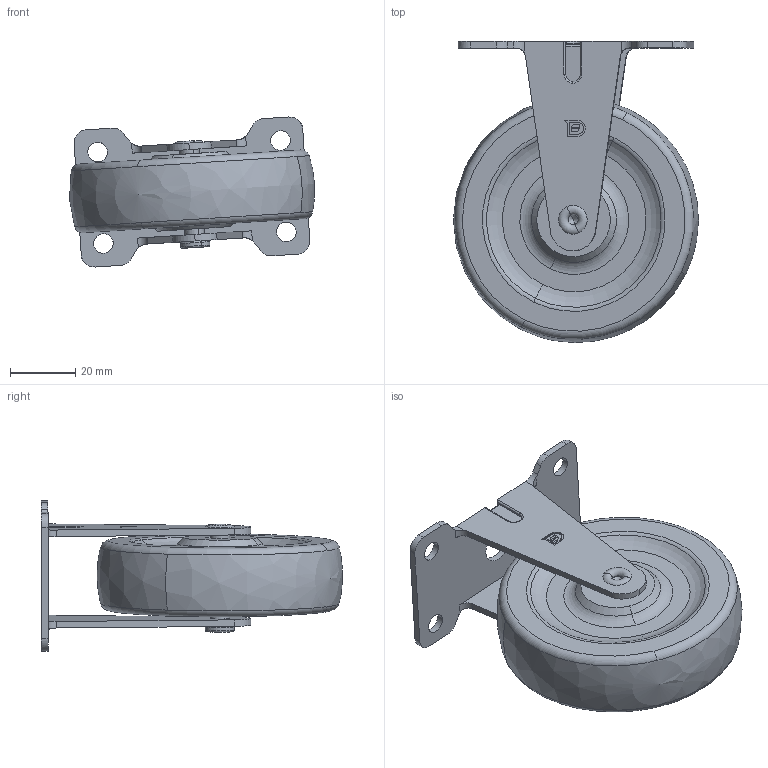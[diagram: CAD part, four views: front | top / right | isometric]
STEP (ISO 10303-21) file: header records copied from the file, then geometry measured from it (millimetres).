
FILE_DESCRIPTION (( 'STEP AP203' ), '1' );
FILE_NAME ('嘐隅.STEP', '2026-03-23T02:03:30', ( '' ), ( '' ), 'SwSTEP 2.0', 'SolidWorks 2021', '' );
FILE_SCHEMA (( 'CONFIG_CONTROL_DESIGN' ));
Length unit declared in the file: millimetre
Products named in the file (5): 3x8分7扁輪_預設; 嘐隅; 3渡25炵蹈嘐隅殤; 蚾饜极1; 輪子鉚釘_預設
Assembly tree (4 placements, depth 3):
  嘐隅
    蚾饜极1
      3渡25炵蹈嘐隅殤
      3x8分7扁輪_預設
      輪子鉚釘_預設
Bounding box: 74.88 x 92 x 45.84 mm (x, y, z)
Volume: 93607.1 mm3; surface area: 25160.1 mm2
Topology: 3 solids, 3 shells, 154 faces, 389 edges, 247 vertices
Faces by surface type: cylinder 58, plane 55, torus 29, cone 10, sphere 2
Entity records: 5209 total; most frequent: CARTESIAN_POINT 926, DIRECTION 844, ORIENTED_EDGE 764, EDGE_CURVE 382, AXIS2_PLACEMENT_3D 330, VERTEX_POINT 244, VECTOR 184, LINE 184
